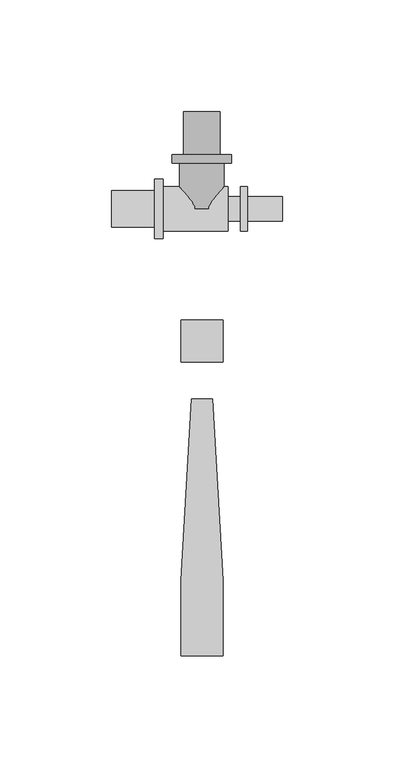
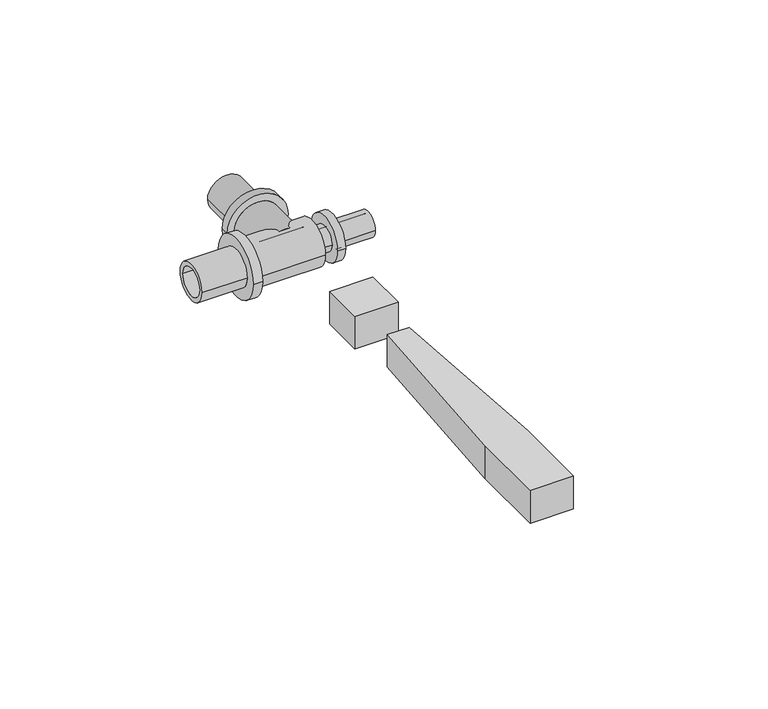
"""IFC4 building model written with IfcOpenShell, lengths in millimetres: pipe fitting geometry, RAUTITAN_T-piece_LX : RTI LX T DN."""

from ifc_helpers import new_model, si_unit, frame, origin, origin_with_axes, place, context, project, spatial, polyline, circle_curve, outline, extrude, source, transform, mapped, element, save
from ifc_brep_helpers import plane_surface, cylinder_surface, revolved_surface, advanced_brep


def pipe_fitting_f9876a37(model_context):
    return source(origin(), model_context, "Body", "SolidModel", [
        advanced_brep(
        [(-10.05, 20.4, 0.0), (10.05, 20.4, 0.0), (10.05, 0.0, 0.0), (-10.05, 0.0, 0.0), (-13.25, 24.2, 0.0), (13.25, 24.2, 0.0), (13.25, 20.4, 0.0), (-13.25, 20.4, 0.0), (-8.25, 43.7, 0.0), (8.25, 43.7, 0.0), (8.25, 24.2, 0.0), (-8.25, 24.2, 0.0), (-6.25, 0.0, 0.0), (6.25, 0.0, 0.0), (6.25, 43.7, 0.0), (-6.25, 43.7, 0.0)],
        [
            (0, 1, circle_curve(frame((0.0, 20.4, 0.0), z_axis=(0.0, -1.0, 0.0), x_axis=(1.0, 0.0, 0.0)), 10.05)),
            (1, 2),
            (2, 3, circle_curve(frame((0.0, 0.0, 0.0), z_axis=(0.0, 1.0, 0.0), x_axis=(1.0, 0.0, 0.0)), 10.05)),
            (3, 0),
            (4, 5, circle_curve(frame((0.0, 24.2, 0.0), z_axis=(0.0, -1.0, 0.0), x_axis=(1.0, 0.0, 0.0)), 13.25)),
            (5, 6),
            (6, 7, circle_curve(frame((0.0, 20.4, 0.0), z_axis=(0.0, 1.0, 0.0), x_axis=(1.0, 0.0, 0.0)), 13.25)),
            (7, 4),
            (8, 9, circle_curve(frame((0.0, 43.7, 0.0), z_axis=(0.0, -1.0, 0.0), x_axis=(1.0, 0.0, 0.0)), 8.25)),
            (9, 10),
            (10, 11, circle_curve(frame((0.0, 24.2, 0.0), z_axis=(0.0, 1.0, 0.0), x_axis=(1.0, 0.0, 0.0)), 8.25)),
            (11, 8),
            (12, 13, circle_curve(frame((0.0, 0.0, 0.0), z_axis=(0.0, -1.0, 0.0), x_axis=(1.0, 0.0, 0.0)), 6.25)),
            (13, 14),
            (14, 15, circle_curve(frame((0.0, 43.7, 0.0), z_axis=(0.0, 1.0, 0.0), x_axis=(1.0, 0.0, 0.0)), 6.25)),
            (15, 12),
            (1, 0, circle_curve(frame((0.0, 20.4, 0.0), z_axis=(0.0, -1.0, 0.0), x_axis=(-1.0, 0.0, 0.0)), 10.05)),
            (3, 2, circle_curve(frame((0.0, 0.0, 0.0), z_axis=(0.0, 1.0, 0.0), x_axis=(-1.0, 0.0, 0.0)), 10.05)),
            (6, 7, circle_curve(frame((0.0, 20.4, 0.0), z_axis=(0.0, -1.0, 0.0), x_axis=(-1.0, 0.0, 0.0)), 13.25)),
            (5, 4, circle_curve(frame((0.0, 24.2, 0.0), z_axis=(0.0, -1.0, 0.0), x_axis=(-1.0, 0.0, 0.0)), 13.25)),
            (10, 11, circle_curve(frame((0.0, 24.2, 0.0), z_axis=(0.0, -1.0, 0.0), x_axis=(-1.0, 0.0, 0.0)), 8.25)),
            (9, 8, circle_curve(frame((0.0, 43.7, 0.0), z_axis=(0.0, -1.0, 0.0), x_axis=(-1.0, 0.0, 0.0)), 8.25)),
            (14, 15, circle_curve(frame((0.0, 43.7, 0.0), z_axis=(0.0, -1.0, 0.0), x_axis=(-1.0, 0.0, 0.0)), 6.25)),
            (13, 12, circle_curve(frame((0.0, 0.0, 0.0), z_axis=(0.0, -1.0, 0.0), x_axis=(-1.0, 0.0, 0.0)), 6.25)),
        ],
        [
            cylinder_surface(frame((0.0, 0.0, 0.0), z_axis=(0.0, 1.0, 0.0), x_axis=(1.0, 0.0, 0.0)), 10.05),
            cylinder_surface(frame((0.0, 0.0, 0.0), z_axis=(0.0, 1.0, 0.0), x_axis=(1.0, 0.0, 0.0)), 13.25),
            cylinder_surface(frame((0.0, 0.0, 0.0), z_axis=(0.0, 1.0, 0.0), x_axis=(1.0, 0.0, 0.0)), 8.25),
            revolved_surface(polyline([(6.25, 43.7, 0.0), (6.25, 0.0, 0.0)]), (0.0, 0.0, 0.0), (0.0, 1.0, 0.0)),
            cylinder_surface(frame((0.0, 0.0, 0.0), z_axis=(0.0, 1.0, 0.0), x_axis=(-1.0, 0.0, 0.0)), 10.05),
            plane_surface(frame((0.0, 20.4, 0.0), z_axis=(0.0, -1.0, 0.0), x_axis=(-1.0, 0.0, 0.0))),
            cylinder_surface(frame((0.0, 0.0, 0.0), z_axis=(0.0, 1.0, 0.0), x_axis=(-1.0, 0.0, 0.0)), 13.25),
            plane_surface(frame((0.0, 24.2, 0.0), z_axis=(0.0, 1.0, 0.0), x_axis=(-1.0, 0.0, 0.0))),
            cylinder_surface(frame((0.0, 0.0, 0.0), z_axis=(0.0, 1.0, 0.0), x_axis=(-1.0, 0.0, 0.0)), 8.25),
            plane_surface(frame((0.0, 43.7, 0.0), z_axis=(0.0, 1.0, 0.0), x_axis=(-1.0, 0.0, 0.0))),
            revolved_surface(polyline([(-6.25, 43.7, 0.0), (-6.25, 0.0, 0.0)]), (0.0, 0.0, 0.0), (0.0, 1.0, 0.0)),
            plane_surface(frame((0.0, 0.0, 0.0), z_axis=(0.0, -1.0, 0.0), x_axis=(-1.0, 0.0, 0.0))),
        ],
        [
            (0, [[1, 2, 3, 4]]),
            (1, [[5, 6, 7, 8]]),
            (2, [[9, 10, 11, 12]]),
            (3, [[13, 14, 15, 16]]),
            (4, [[17, -4, 18, -2]]),
            (5, [[19, -7], [-17, -1]]),
            (6, [[20, -8, -19, -6]]),
            (7, [[-20, -5], [21, -11]]),
            (8, [[22, -12, -21, -10]]),
            (9, [[-22, -9], [23, -15]]),
            (10, [[24, -16, -23, -14]]),
            (11, [[-18, -3], [-24, -13]]),
        ],
    ),
        advanced_brep(
        [(-40.6, 6.25, 0.0), (-40.6, -6.25, 0.0), (10.05, -6.25, 0.0), (10.05, 6.25, 0.0), (11.85, 10.05, 0.0), (11.85, -10.05, 0.0), (-17.3, -10.05, 0.0), (-17.3, 10.05, 0.0), (-17.3, 13.25, 0.0), (-17.3, -13.25, 0.0), (-21.1, -13.25, 0.0), (-21.1, 13.25, 0.0), (-21.1, 8.25, 0.0), (-21.1, -8.25, 0.0), (-40.6, -8.25, 0.0), (-40.6, 8.25, 0.0), (10.05, 3.75, 0.0), (10.05, -3.75, 0.0), (36.1, -3.75, 0.0), (36.1, 3.75, 0.0), (36.1, 5.55, 0.0), (36.1, -5.55, 0.0), (20.6, -5.55, 0.0), (20.6, 5.55, 0.0), (20.6, 10.05, 0.0), (20.6, -10.05, 0.0), (17.3, -10.05, 0.0), (17.3, 10.05, 0.0), (17.3, 5.55, 0.0), (17.3, -5.55, 0.0), (11.85, -5.55, 0.0), (11.85, 5.55, 0.0)],
        [
            (0, 1, circle_curve(frame((-40.6, 0.0, 0.0), z_axis=(-1.0, 0.0, 0.0), x_axis=(0.0, -1.0, 0.0)), 6.25)),
            (1, 2),
            (2, 3, circle_curve(frame((10.05, 0.0, 0.0), z_axis=(1.0, 0.0, 0.0), x_axis=(0.0, -1.0, 0.0)), 6.25)),
            (3, 0),
            (4, 5, circle_curve(frame((11.85, 0.0, 0.0), z_axis=(-1.0, 0.0, 0.0), x_axis=(0.0, -1.0, 0.0)), 10.05)),
            (5, 6),
            (6, 7, circle_curve(frame((-17.3, 0.0, 0.0), z_axis=(1.0, 0.0, 0.0), x_axis=(0.0, -1.0, 0.0)), 10.05)),
            (7, 4),
            (1, 0, circle_curve(frame((-40.6, 0.0, 0.0), z_axis=(-1.0, 0.0, 0.0), x_axis=(0.0, 1.0, 0.0)), 6.25)),
            (3, 2, circle_curve(frame((10.05, 0.0, 0.0), z_axis=(1.0, 0.0, 0.0), x_axis=(0.0, 1.0, 0.0)), 6.25)),
            (5, 4, circle_curve(frame((11.85, 0.0, 0.0), z_axis=(-1.0, 0.0, 0.0), x_axis=(0.0, 1.0, 0.0)), 10.05)),
            (7, 6, circle_curve(frame((-17.3, 0.0, 0.0), z_axis=(1.0, 0.0, 0.0), x_axis=(0.0, 1.0, 0.0)), 10.05)),
            (8, 9, circle_curve(frame((-17.3, 0.0, 0.0), z_axis=(-1.0, 0.0, 0.0), x_axis=(0.0, -1.0, 0.0)), 13.25)),
            (9, 10),
            (10, 11, circle_curve(frame((-21.1, 0.0, 0.0), z_axis=(1.0, 0.0, 0.0), x_axis=(0.0, -1.0, 0.0)), 13.25)),
            (11, 8),
            (12, 13, circle_curve(frame((-21.1, 0.0, 0.0), z_axis=(-1.0, 0.0, 0.0), x_axis=(0.0, -1.0, 0.0)), 8.25)),
            (13, 14),
            (14, 15, circle_curve(frame((-40.6, 0.0, 0.0), z_axis=(1.0, 0.0, 0.0), x_axis=(0.0, -1.0, 0.0)), 8.25)),
            (15, 12),
            (8, 9, circle_curve(frame((-17.3, 0.0, 0.0), z_axis=(1.0, 0.0, 0.0), x_axis=(0.0, 1.0, 0.0)), 13.25)),
            (11, 10, circle_curve(frame((-21.1, 0.0, 0.0), z_axis=(1.0, 0.0, 0.0), x_axis=(0.0, 1.0, 0.0)), 13.25)),
            (12, 13, circle_curve(frame((-21.1, 0.0, 0.0), z_axis=(1.0, 0.0, 0.0), x_axis=(0.0, 1.0, 0.0)), 8.25)),
            (15, 14, circle_curve(frame((-40.6, 0.0, 0.0), z_axis=(1.0, 0.0, 0.0), x_axis=(0.0, 1.0, 0.0)), 8.25)),
            (16, 17, circle_curve(frame((10.05, 0.0, 0.0), z_axis=(-1.0, 0.0, 0.0), x_axis=(0.0, -1.0, 0.0)), 3.75)),
            (17, 18),
            (18, 19, circle_curve(frame((36.1, 0.0, 0.0), z_axis=(1.0, 0.0, 0.0), x_axis=(0.0, -1.0, 0.0)), 3.75)),
            (19, 16),
            (20, 21, circle_curve(frame((36.1, 0.0, 0.0), z_axis=(-1.0, 0.0, 0.0), x_axis=(0.0, -1.0, 0.0)), 5.55)),
            (21, 22),
            (22, 23, circle_curve(frame((20.6, 0.0, 0.0), z_axis=(1.0, 0.0, 0.0), x_axis=(0.0, -1.0, 0.0)), 5.55)),
            (23, 20),
            (24, 25, circle_curve(frame((20.6, 0.0, 0.0), z_axis=(-1.0, 0.0, 0.0), x_axis=(0.0, -1.0, 0.0)), 10.05)),
            (25, 26),
            (26, 27, circle_curve(frame((17.3, 0.0, 0.0), z_axis=(1.0, 0.0, 0.0), x_axis=(0.0, -1.0, 0.0)), 10.05)),
            (27, 24),
            (28, 29, circle_curve(frame((17.3, 0.0, 0.0), z_axis=(-1.0, 0.0, 0.0), x_axis=(0.0, -1.0, 0.0)), 5.55)),
            (29, 30),
            (30, 31, circle_curve(frame((11.85, 0.0, 0.0), z_axis=(1.0, 0.0, 0.0), x_axis=(0.0, -1.0, 0.0)), 5.55)),
            (31, 28),
            (16, 17, circle_curve(frame((10.05, 0.0, 0.0), z_axis=(1.0, 0.0, 0.0), x_axis=(0.0, 1.0, 0.0)), 3.75)),
            (19, 18, circle_curve(frame((36.1, 0.0, 0.0), z_axis=(1.0, 0.0, 0.0), x_axis=(0.0, 1.0, 0.0)), 3.75)),
            (20, 21, circle_curve(frame((36.1, 0.0, 0.0), z_axis=(1.0, 0.0, 0.0), x_axis=(0.0, 1.0, 0.0)), 5.55)),
            (23, 22, circle_curve(frame((20.6, 0.0, 0.0), z_axis=(1.0, 0.0, 0.0), x_axis=(0.0, 1.0, 0.0)), 5.55)),
            (24, 25, circle_curve(frame((20.6, 0.0, 0.0), z_axis=(1.0, 0.0, 0.0), x_axis=(0.0, 1.0, 0.0)), 10.05)),
            (27, 26, circle_curve(frame((17.3, 0.0, 0.0), z_axis=(1.0, 0.0, 0.0), x_axis=(0.0, 1.0, 0.0)), 10.05)),
            (28, 29, circle_curve(frame((17.3, 0.0, 0.0), z_axis=(1.0, 0.0, 0.0), x_axis=(0.0, 1.0, 0.0)), 5.55)),
            (31, 30, circle_curve(frame((11.85, 0.0, 0.0), z_axis=(1.0, 0.0, 0.0), x_axis=(0.0, 1.0, 0.0)), 5.55)),
        ],
        [
            revolved_surface(polyline([(10.05, -6.25, 0.0), (-40.6, -6.25, 0.0)]), (0.0, 0.0, 0.0), (1.0, 0.0, 0.0)),
            cylinder_surface(frame((0.0, 0.0, 0.0), z_axis=(1.0, 0.0, 0.0), x_axis=(0.0, -1.0, 0.0)), 10.05),
            revolved_surface(polyline([(10.05, 6.25, 0.0), (-40.6, 6.25, 0.0)]), (0.0, 0.0, 0.0), (1.0, 0.0, 0.0)),
            cylinder_surface(frame((0.0, 0.0, 0.0), z_axis=(1.0, 0.0, 0.0), x_axis=(0.0, 1.0, 0.0)), 10.05),
            cylinder_surface(frame((0.0, 0.0, 0.0), z_axis=(1.0, 0.0, 0.0), x_axis=(0.0, -1.0, 0.0)), 13.25),
            cylinder_surface(frame((0.0, 0.0, 0.0), z_axis=(1.0, 0.0, 0.0), x_axis=(0.0, -1.0, 0.0)), 8.25),
            plane_surface(frame((-17.3, 0.0, 0.0), z_axis=(1.0, 0.0, 0.0), x_axis=(0.0, 1.0, 0.0))),
            cylinder_surface(frame((0.0, 0.0, 0.0), z_axis=(1.0, 0.0, 0.0), x_axis=(0.0, 1.0, 0.0)), 13.25),
            plane_surface(frame((-21.1, 0.0, 0.0), z_axis=(-1.0, 0.0, 0.0), x_axis=(0.0, 1.0, 0.0))),
            cylinder_surface(frame((0.0, 0.0, 0.0), z_axis=(1.0, 0.0, 0.0), x_axis=(0.0, 1.0, 0.0)), 8.25),
            plane_surface(frame((-40.6, 0.0, 0.0), z_axis=(-1.0, 0.0, 0.0), x_axis=(0.0, 1.0, 0.0))),
            revolved_surface(polyline([(36.1, -3.75, 0.0), (10.05, -3.75, 0.0)]), (0.0, 0.0, 0.0), (1.0, 0.0, 0.0)),
            cylinder_surface(frame((0.0, 0.0, 0.0), z_axis=(1.0, 0.0, 0.0), x_axis=(0.0, -1.0, 0.0)), 5.55),
            plane_surface(frame((10.05, 0.0, 0.0), z_axis=(-1.0, 0.0, 0.0), x_axis=(0.0, 1.0, 0.0))),
            revolved_surface(polyline([(36.1, 3.75, 0.0), (10.05, 3.75, 0.0)]), (0.0, 0.0, 0.0), (1.0, 0.0, 0.0)),
            plane_surface(frame((36.1, 0.0, 0.0), z_axis=(1.0, 0.0, 0.0), x_axis=(0.0, 1.0, 0.0))),
            cylinder_surface(frame((0.0, 0.0, 0.0), z_axis=(1.0, 0.0, 0.0), x_axis=(0.0, 1.0, 0.0)), 5.55),
            plane_surface(frame((20.6, 0.0, 0.0), z_axis=(1.0, 0.0, 0.0), x_axis=(0.0, 1.0, 0.0))),
            plane_surface(frame((17.3, 0.0, 0.0), z_axis=(-1.0, 0.0, 0.0), x_axis=(0.0, 1.0, 0.0))),
            plane_surface(frame((11.85, 0.0, 0.0), z_axis=(1.0, 0.0, 0.0), x_axis=(0.0, 1.0, 0.0))),
        ],
        [
            (0, [[1, 2, 3, 4]]),
            (1, [[5, 6, 7, 8]]),
            (2, [[9, -4, 10, -2]]),
            (3, [[11, -8, 12, -6]]),
            (4, [[13, 14, 15, 16]]),
            (5, [[17, 18, 19, 20]]),
            (6, [[21, -13], [-12, -7]]),
            (7, [[-21, -16, 22, -14]]),
            (8, [[-22, -15], [23, -17]]),
            (9, [[-23, -20, 24, -18]]),
            (10, [[-24, -19], [-9, -1]]),
            (11, [[25, 26, 27, 28]]),
            (12, [[29, 30, 31, 32]]),
            (1, [[33, 34, 35, 36]]),
            (12, [[37, 38, 39, 40]]),
            (13, [[-10, -3], [41, -25]]),
            (14, [[-41, -28, 42, -26]]),
            (15, [[43, -29], [-42, -27]]),
            (16, [[-43, -32, 44, -30]]),
            (17, [[45, -33], [-44, -31]]),
            (3, [[-45, -36, 46, -34]]),
            (18, [[-46, -35], [47, -37]]),
            (16, [[-47, -40, 48, -38]]),
            (19, [[-11, -5], [-48, -39]]),
        ],
    ),
        extrude(outline(polyline([(4.7088895, -85.3166715), (9.4177791, -166.6553807), (9.4177791, -200.6844652), (-9.4177791, -200.6844652), (-9.4177791, -166.6553807), (-4.7088895, -85.3166715), (4.7088895, -85.3166715)])), origin_with_axes(), (0.0, 0.0, 1.0), 15.0),
        extrude(outline(polyline([(9.4177791, -50.0), (9.4177791, -68.8355582), (-9.4177791, -68.8355582), (-9.4177791, -50.0), (9.4177791, -50.0)])), origin_with_axes(), (0.0, 0.0, 1.0), 15.0),
    ])


if __name__ == "__main__":
    model = new_model("IFC4")
    model_context = context("Model", 3, world=origin())
    ifc_project = project(units=[si_unit("LENGTHUNIT", "METRE", prefix="MILLI")], contexts=[model_context])
    site = spatial("IfcSite", under=ifc_project)
    building = spatial("IfcBuilding", under=site)
    placement = place(None, origin())
    pipe_fitting_shape = pipe_fitting_f9876a37(model_context)
    element("IfcPipeFitting", 1, ObjectType="RAUTITAN_T-piece_LX : RTI LX T DN", at=placement, inside=building, context=model_context, shape_type="MappedRepresentation", body=[
        mapped(pipe_fitting_shape, transform((0.0, 0.0, 0.0), x_axis=(1.0, 0.0, 0.0), y_axis=(0.0, 1.0, 0.0), z_axis=(0.0, 0.0, 1.0))),
    ])
    save(model, "model.ifc")
